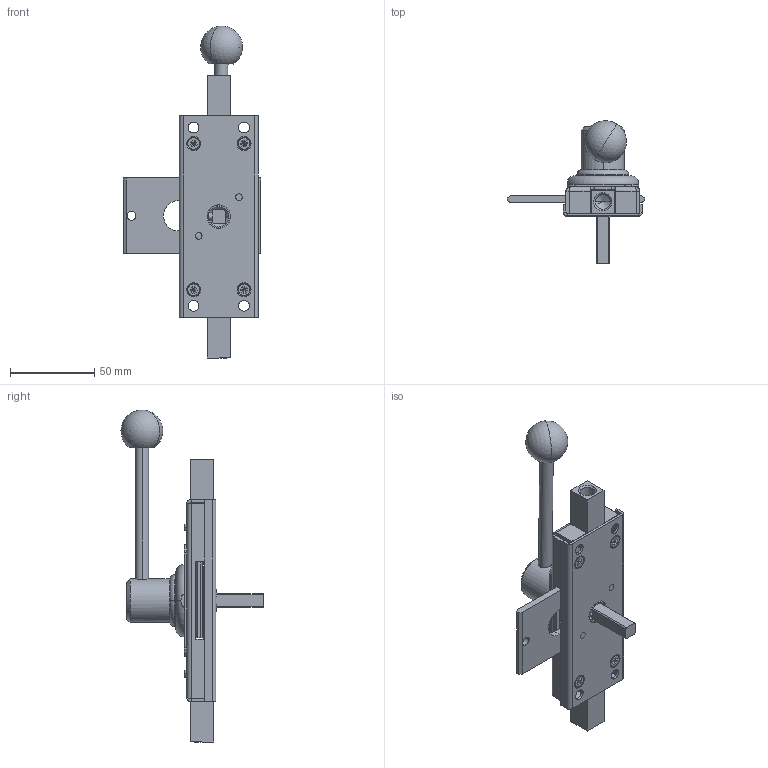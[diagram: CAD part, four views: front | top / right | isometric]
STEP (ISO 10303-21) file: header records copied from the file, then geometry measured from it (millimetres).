
FILE_DESCRIPTION (( 'STEP AP214' ), '1' );
FILE_NAME ('1B.ZWPM10.P - zamek wewnetrzny panik ZWP prawy.STEP', '2016-09-07T09:59:35', ( '' ), ( '' ), 'SwSTEP 2.0', 'SolidWorks 2015', '' );
FILE_SCHEMA (( 'AUTOMOTIVE_DESIGN' ));
Length unit declared in the file: millimetre
Products named in the file (26): 1B.ZW.020_A; 1B.ZW.011_A; M4_M4 x 8; 1B.ZW.004_A; 1B.ZW.012_A.35; 1B.ZW.013_A; 1B.ZW.014_K.02; 1B.ZW.015_A; 1B.ZW.016_A; 1B.ZWPM10.P - zamek wewnetrzny panik ZWP prawy; 1B.ZW.001_A; 1B.ZW.002_B; 1B.ZW.005.01_A; 1B.ZW.003_A; 1B.ZW.005.02_A; 1B.ZW.005.03_A - M10; 1B.ZW.005.04_A; 1B.ZW.005_A.L; 1B.ZW.006_A; 1B.ZW.008_A; 1B.ZW.007_A; 1B.ZW.010_A; 1B.ZW.009_A; 1B.ZW.011.03_A; 1B.ZW.011.01_A; 1B.ZW.011.02_K.01
Assembly tree (36 placements, depth 3):
  1B.ZWPM10.P - zamek wewnetrzny panik ZWP prawy
    1B.ZW.002_B
    1B.ZW.001_A
    1B.ZW.003_A  x4
    1B.ZW.005_A.L  x2
      1B.ZW.005.01_A
      1B.ZW.005.02_A
      1B.ZW.005.03_A - M10
      1B.ZW.005.04_A
    1B.ZW.006_A
    1B.ZW.007_A
    1B.ZW.008_A
    1B.ZW.009_A
    1B.ZW.010_A
    1B.ZW.011_A
      1B.ZW.011.01_A
      1B.ZW.011.03_A
    1B.ZW.011.02_K.01
    1B.ZW.020_A
    1B.ZW.016_A
    1B.ZW.015_A
    1B.ZW.014_K.02
    1B.ZW.013_A
    1B.ZW.012_A.35
    M4_M4 x 8  x8
    1B.ZW.004_A
Bounding box: 82 x 84.52 x 197.55 mm (x, y, z)
Volume: 101703.1 mm3; surface area: 84474.7 mm2
Topology: 39 solids, 39 shells, 955 faces, 2246 edges, 1380 vertices
Faces by surface type: plane 424, cylinder 291, cone 188, torus 36, bspline 14, sphere 2
Entity records: 23096 total; most frequent: CARTESIAN_POINT 7310, DIRECTION 3215, ORIENTED_EDGE 2882, EDGE_CURVE 1441, AXIS2_PLACEMENT_3D 1242, VERTEX_POINT 898, VECTOR 731, LINE 731
